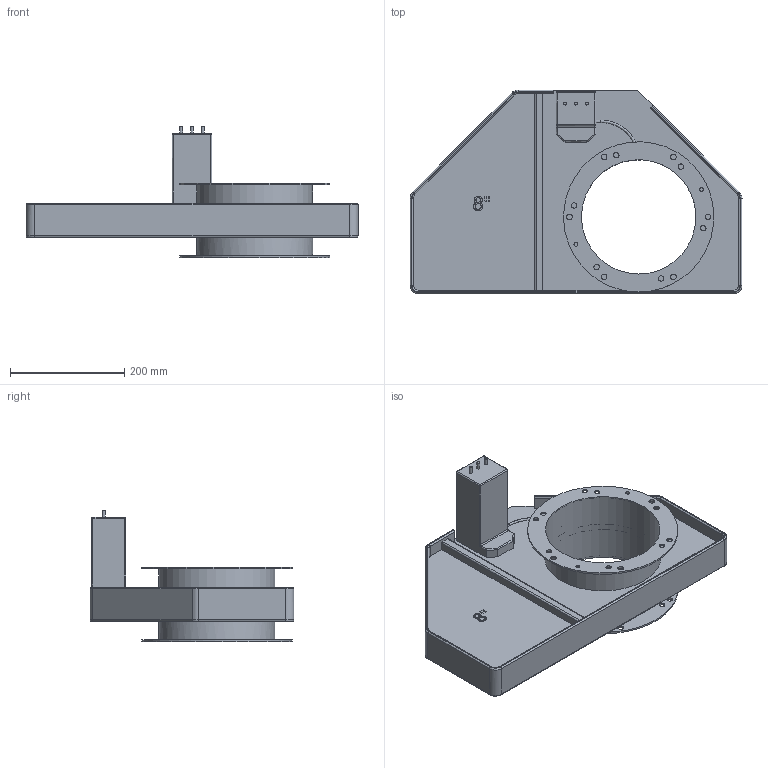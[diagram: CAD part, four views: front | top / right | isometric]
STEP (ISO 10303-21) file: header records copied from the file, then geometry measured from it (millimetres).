
FILE_DESCRIPTION( ('This file contains a STEP AP42 implementation' ,'as created by ZW3D STEP Interface translator.') ,'2;1' );
FILE_NAME( '3D Model-HO208 Body with drive.stp' ,'20 629.1240 5', (''), ('ZWCAD Software Co.'), 'Version 1.0', 'ZW3D to STEP translator', '' );
FILE_SCHEMA(('AUTOMOTIVE_DESIGN'));
Length unit declared in the file: millimetre
Products named in the file (1): 0
Bounding box: 582.26 x 357.51 x 230.3 mm (x, y, z)
Volume: 3230324.4 mm3; surface area: 754680.9 mm2
Topology: 2 solids, 2 shells, 628 faces, 1615 edges, 1055 vertices
Faces by surface type: bspline 628
Entity records: 20566 total; most frequent: CARTESIAN_POINT 10068, ORIENTED_EDGE 3208, EDGE_CURVE 1604, B_SPLINE_CURVE_WITH_KNOTS 1334, VERTEX_POINT 1041, EDGE_LOOP 747, FACE_OUTER_BOUND 628, ADVANCED_FACE 628
